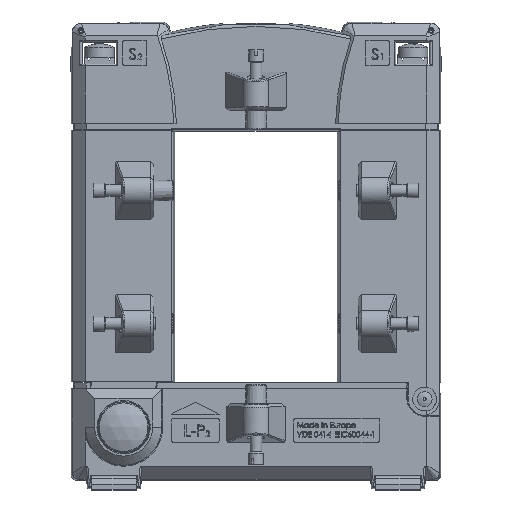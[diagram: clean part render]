
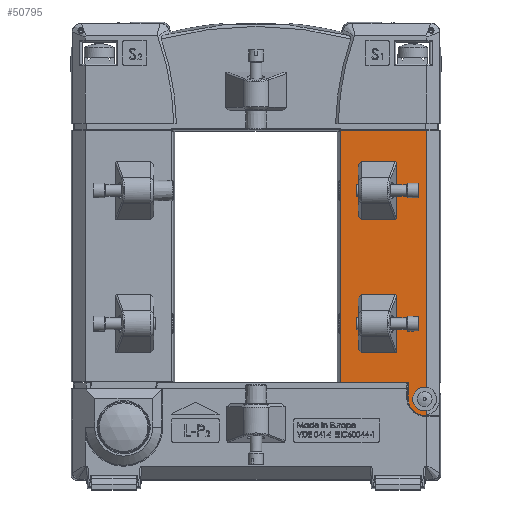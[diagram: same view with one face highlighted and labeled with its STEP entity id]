
A CAD part, top view. The second image highlights one B-rep face of the part: STEP entity #50795.
In plain terms, the highlighted planar face has unit normal (0, 0, 1).
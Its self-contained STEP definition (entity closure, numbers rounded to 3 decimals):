
#1919=ELLIPSE('',#53902,0.502,0.5);
#1920=ELLIPSE('',#53904,0.588,0.5);
#1921=ELLIPSE('',#53905,0.588,0.5);
#1922=ELLIPSE('',#53906,0.588,0.5);
#1923=ELLIPSE('',#53907,0.588,0.5);
#2383=FACE_BOUND('',#6480,.T.);
#2384=FACE_BOUND('',#6481,.T.);
#3666=FACE_OUTER_BOUND('',#6479,.T.);
#6479=EDGE_LOOP('',(#37302,#37303,#37304,#37305,#37306,#37307,#37308,#37309,
#37310,#37311,#37312,#37313));
#6480=EDGE_LOOP('',(#37314,#37315,#37316,#37317,#37318,#37319,#37320,#37321));
#6481=EDGE_LOOP('',(#37322,#37323,#37324,#37325,#37326,#37327,#37328,#37329));
#8429=CIRCLE('',#53898,5.5);
#8430=CIRCLE('',#53899,5.507);
#8431=CIRCLE('',#53900,4.003);
#8432=CIRCLE('',#53901,4.003);
#8433=CIRCLE('',#53903,0.2);
#11401=LINE('',#85970,#16301);
#11409=LINE('',#86034,#16309);
#11673=LINE('',#87048,#16573);
#11699=LINE('',#87185,#16599);
#11700=LINE('',#87191,#16600);
#11701=LINE('',#87193,#16601);
#11702=LINE('',#87196,#16602);
#11703=LINE('',#87199,#16603);
#11704=LINE('',#87202,#16604);
#11705=LINE('',#87206,#16605);
#11706=LINE('',#87207,#16606);
#11707=LINE('',#87209,#16607);
#11708=LINE('',#87211,#16608);
#11709=LINE('',#87214,#16609);
#11710=LINE('',#87216,#16610);
#11711=LINE('',#87218,#16611);
#11712=LINE('',#87222,#16612);
#11713=LINE('',#87225,#16613);
#16301=VECTOR('',#61465,1000.);
#16309=VECTOR('',#61497,1000.);
#16573=VECTOR('',#61973,1000.);
#16599=VECTOR('',#62059,1000.);
#16600=VECTOR('',#62064,1000.);
#16601=VECTOR('',#62065,1000.);
#16602=VECTOR('',#62068,1000.);
#16603=VECTOR('',#62071,1000.);
#16604=VECTOR('',#62072,1000.);
#16605=VECTOR('',#62075,1000.);
#16606=VECTOR('',#62076,1000.);
#16607=VECTOR('',#62077,1000.);
#16608=VECTOR('',#62078,1000.);
#16609=VECTOR('',#62081,1000.);
#16610=VECTOR('',#62082,1000.);
#16611=VECTOR('',#62083,1000.);
#16612=VECTOR('',#62086,1000.);
#16613=VECTOR('',#62089,1000.);
#21013=VERTEX_POINT('',#85967);
#21014=VERTEX_POINT('',#85969);
#21029=VERTEX_POINT('',#86031);
#21030=VERTEX_POINT('',#86033);
#21330=VERTEX_POINT('',#87045);
#21331=VERTEX_POINT('',#87047);
#21374=VERTEX_POINT('',#87179);
#21375=VERTEX_POINT('',#87180);
#21376=VERTEX_POINT('',#87182);
#21377=VERTEX_POINT('',#87184);
#21378=VERTEX_POINT('',#87186);
#21379=VERTEX_POINT('',#87188);
#21380=VERTEX_POINT('',#87190);
#21381=VERTEX_POINT('',#87192);
#21382=VERTEX_POINT('',#87194);
#21383=VERTEX_POINT('',#87197);
#21384=VERTEX_POINT('',#87200);
#21385=VERTEX_POINT('',#87201);
#21386=VERTEX_POINT('',#87203);
#21387=VERTEX_POINT('',#87205);
#21388=VERTEX_POINT('',#87208);
#21389=VERTEX_POINT('',#87210);
#21390=VERTEX_POINT('',#87213);
#21391=VERTEX_POINT('',#87215);
#21392=VERTEX_POINT('',#87217);
#21393=VERTEX_POINT('',#87219);
#21394=VERTEX_POINT('',#87221);
#21395=VERTEX_POINT('',#87223);
#26669=EDGE_CURVE('',#21014,#21013,#11401,.T.);
#26687=EDGE_CURVE('',#21030,#21029,#11409,.T.);
#27027=EDGE_CURVE('',#21331,#21330,#11673,.T.);
#27078=EDGE_CURVE('',#21374,#21375,#8429,.T.);
#27079=EDGE_CURVE('',#21375,#21376,#8430,.T.);
#27080=EDGE_CURVE('',#21376,#21377,#11699,.T.);
#27081=EDGE_CURVE('',#21378,#21377,#8431,.T.);
#27082=EDGE_CURVE('',#21379,#21378,#8432,.T.);
#27083=EDGE_CURVE('',#21379,#21380,#11700,.T.);
#27084=EDGE_CURVE('',#21381,#21380,#11701,.T.);
#27085=EDGE_CURVE('',#21381,#21382,#1919,.T.);
#27086=EDGE_CURVE('',#21382,#21331,#11702,.T.);
#27087=EDGE_CURVE('',#21330,#21383,#8433,.T.);
#27088=EDGE_CURVE('',#21383,#21374,#11703,.T.);
#27089=EDGE_CURVE('',#21384,#21385,#11704,.T.);
#27090=EDGE_CURVE('',#21384,#21386,#1920,.T.);
#27091=EDGE_CURVE('',#21386,#21387,#11705,.T.);
#27092=EDGE_CURVE('',#21387,#21030,#11706,.T.);
#27093=EDGE_CURVE('',#21029,#21388,#11707,.T.);
#27094=EDGE_CURVE('',#21388,#21389,#11708,.T.);
#27095=EDGE_CURVE('',#21389,#21385,#1921,.T.);
#27096=EDGE_CURVE('',#21390,#21014,#11709,.T.);
#27097=EDGE_CURVE('',#21013,#21391,#11710,.T.);
#27098=EDGE_CURVE('',#21391,#21392,#11711,.T.);
#27099=EDGE_CURVE('',#21392,#21393,#1922,.T.);
#27100=EDGE_CURVE('',#21394,#21393,#11712,.T.);
#27101=EDGE_CURVE('',#21394,#21395,#1923,.T.);
#27102=EDGE_CURVE('',#21395,#21390,#11713,.T.);
#37302=ORIENTED_EDGE('',*,*,#27078,.T.);
#37303=ORIENTED_EDGE('',*,*,#27079,.T.);
#37304=ORIENTED_EDGE('',*,*,#27080,.T.);
#37305=ORIENTED_EDGE('',*,*,#27081,.F.);
#37306=ORIENTED_EDGE('',*,*,#27082,.F.);
#37307=ORIENTED_EDGE('',*,*,#27083,.T.);
#37308=ORIENTED_EDGE('',*,*,#27084,.F.);
#37309=ORIENTED_EDGE('',*,*,#27085,.T.);
#37310=ORIENTED_EDGE('',*,*,#27086,.T.);
#37311=ORIENTED_EDGE('',*,*,#27027,.T.);
#37312=ORIENTED_EDGE('',*,*,#27087,.T.);
#37313=ORIENTED_EDGE('',*,*,#27088,.T.);
#37314=ORIENTED_EDGE('',*,*,#27089,.F.);
#37315=ORIENTED_EDGE('',*,*,#27090,.T.);
#37316=ORIENTED_EDGE('',*,*,#27091,.T.);
#37317=ORIENTED_EDGE('',*,*,#27092,.T.);
#37318=ORIENTED_EDGE('',*,*,#26687,.T.);
#37319=ORIENTED_EDGE('',*,*,#27093,.T.);
#37320=ORIENTED_EDGE('',*,*,#27094,.T.);
#37321=ORIENTED_EDGE('',*,*,#27095,.T.);
#37322=ORIENTED_EDGE('',*,*,#27096,.T.);
#37323=ORIENTED_EDGE('',*,*,#26669,.T.);
#37324=ORIENTED_EDGE('',*,*,#27097,.T.);
#37325=ORIENTED_EDGE('',*,*,#27098,.T.);
#37326=ORIENTED_EDGE('',*,*,#27099,.T.);
#37327=ORIENTED_EDGE('',*,*,#27100,.F.);
#37328=ORIENTED_EDGE('',*,*,#27101,.T.);
#37329=ORIENTED_EDGE('',*,*,#27102,.T.);
#45997=PLANE('',#53897);
#50795=ADVANCED_FACE('',(#3666,#2383,#2384),#45997,.T.);
#53897=AXIS2_PLACEMENT_3D('',#87178,#62053,#62054);
#53898=AXIS2_PLACEMENT_3D('',#87181,#62055,#62056);
#53899=AXIS2_PLACEMENT_3D('',#87183,#62057,#62058);
#53900=AXIS2_PLACEMENT_3D('',#87187,#62060,#62061);
#53901=AXIS2_PLACEMENT_3D('',#87189,#62062,#62063);
#53902=AXIS2_PLACEMENT_3D('',#87195,#62066,#62067);
#53903=AXIS2_PLACEMENT_3D('',#87198,#62069,#62070);
#53904=AXIS2_PLACEMENT_3D('',#87204,#62073,#62074);
#53905=AXIS2_PLACEMENT_3D('',#87212,#62079,#62080);
#53906=AXIS2_PLACEMENT_3D('',#87220,#62084,#62085);
#53907=AXIS2_PLACEMENT_3D('',#87224,#62087,#62088);
#61465=DIRECTION('',(0.,1.,0.));
#61497=DIRECTION('',(0.,1.,0.));
#61973=DIRECTION('',(1.,0.,0.));
#62053=DIRECTION('center_axis',(0.,0.,1.));
#62054=DIRECTION('ref_axis',(1.,0.,0.));
#62055=DIRECTION('center_axis',(0.,0.,1.));
#62056=DIRECTION('ref_axis',(1.,0.,0.));
#62057=DIRECTION('center_axis',(0.,0.,
1.));
#62058=DIRECTION('ref_axis',(0.246,-0.969,0.));
#62059=DIRECTION('',(0.,1.,0.));
#62060=DIRECTION('center_axis',(0.,0.,1.));
#62061=DIRECTION('ref_axis',(1.,0.,0.));
#62062=DIRECTION('center_axis',(0.,0.,1.));
#62063=DIRECTION('ref_axis',(1.,0.,0.));
#62064=DIRECTION('',(0.,1.,0.));
#62065=DIRECTION('',(1.,0.,0.));
#62066=DIRECTION('center_axis',(0.,0.,1.));
#62067=DIRECTION('ref_axis',(0.37,-0.929,0.));
#62068=DIRECTION('',(0.,-1.,0.));
#62069=DIRECTION('center_axis',(0.,0.,-1.));
#62070=DIRECTION('ref_axis',(1.,0.,0.));
#62071=DIRECTION('',(0.,-1.,0.));
#62072=DIRECTION('',(0.,1.,0.));
#62073=DIRECTION('center_axis',(0.,0.,-1.));
#62074=DIRECTION('ref_axis',(-0.358,0.934,0.));
#62075=DIRECTION('',(-1.,0.,0.));
#62076=DIRECTION('',(-0.658,0.753,0.));
#62077=DIRECTION('',(0.658,0.753,0.));
#62078=DIRECTION('',(1.,0.,0.));
#62079=DIRECTION('center_axis',(0.,0.,-1.));
#62080=DIRECTION('ref_axis',(0.358,0.934,0.));
#62081=DIRECTION('',(-0.658,0.753,0.));
#62082=DIRECTION('',(0.658,0.753,0.));
#62083=DIRECTION('',(1.,0.,0.));
#62084=DIRECTION('center_axis',(0.,0.,
-1.));
#62085=DIRECTION('ref_axis',(0.358,0.934,0.));
#62086=DIRECTION('',(0.,1.,0.));
#62087=DIRECTION('center_axis',(0.,0.,
-1.));
#62088=DIRECTION('ref_axis',(-0.358,0.934,0.));
#62089=DIRECTION('',(-1.,0.,0.));
#85967=CARTESIAN_POINT('',(34.5,50.41,17.));
#85969=CARTESIAN_POINT('',(34.5,33.09,17.));
#85970=CARTESIAN_POINT('',(34.5,-28.74,17.));
#86031=CARTESIAN_POINT('',(34.5,95.41,17.));
#86033=CARTESIAN_POINT('',(34.5,78.09,17.));
#86034=CARTESIAN_POINT('',(34.5,16.26,17.));
#87045=CARTESIAN_POINT('',(51.3,21.96,17.));
#87047=CARTESIAN_POINT('',(28.576,21.96,17.));
#87048=CARTESIAN_POINT('',(27.5,21.96,17.));
#87178=CARTESIAN_POINT('Origin',(57.,16.26,17.));
#87179=CARTESIAN_POINT('',(51.5,16.26,17.));
#87180=CARTESIAN_POINT('',(57.,10.76,17.));
#87181=CARTESIAN_POINT('Origin',(57.,16.26,17.));
#87182=CARTESIAN_POINT('',(57.759,10.897,17.));
#87183=CARTESIAN_POINT('Origin',(56.402,16.234,17.));
#87184=CARTESIAN_POINT('',(57.759,12.329,17.));
#87185=CARTESIAN_POINT('',(57.759,143.166,17.));
#87186=CARTESIAN_POINT('',(52.997,16.26,17.));
#87187=CARTESIAN_POINT('Origin',(57.,16.26,17.));
#87188=CARTESIAN_POINT('',(57.759,20.191,17.));
#87189=CARTESIAN_POINT('Origin',(57.,16.26,17.));
#87190=CARTESIAN_POINT('',(57.759,107.183,17.));
#87191=CARTESIAN_POINT('',(57.759,143.166,17.));
#87192=CARTESIAN_POINT('',(28.592,107.183,17.));
#87193=CARTESIAN_POINT('',(57.,107.183,17.));
#87194=CARTESIAN_POINT('',(28.576,107.183,17.));
#87195=CARTESIAN_POINT('Origin',(28.594,106.682,17.));
#87196=CARTESIAN_POINT('',(28.576,21.96,17.));
#87197=CARTESIAN_POINT('',(51.5,21.76,17.));
#87198=CARTESIAN_POINT('Origin',(51.3,21.76,17.));
#87199=CARTESIAN_POINT('',(51.5,16.26,17.));
#87200=CARTESIAN_POINT('',(47.5,77.45,17.));
#87201=CARTESIAN_POINT('',(47.5,96.05,17.));
#87202=CARTESIAN_POINT('',(47.5,16.26,17.));
#87203=CARTESIAN_POINT('',(47.043,76.935,17.));
#87204=CARTESIAN_POINT('Origin',(46.988,77.512,17.));
#87205=CARTESIAN_POINT('',(35.509,76.935,17.));
#87206=CARTESIAN_POINT('',(57.,76.935,17.));
#87207=CARTESIAN_POINT('',(32.82,80.012,17.));
#87208=CARTESIAN_POINT('',(35.509,96.565,17.));
#87209=CARTESIAN_POINT('',(32.82,93.488,17.));
#87210=CARTESIAN_POINT('',(47.043,96.565,17.));
#87211=CARTESIAN_POINT('',(57.,96.565,17.));
#87212=CARTESIAN_POINT('Origin',(46.988,95.988,17.));
#87213=CARTESIAN_POINT('',(35.509,31.935,17.));
#87214=CARTESIAN_POINT('',(32.82,35.012,17.));
#87215=CARTESIAN_POINT('',(35.509,51.565,17.));
#87216=CARTESIAN_POINT('',(32.82,48.488,17.));
#87217=CARTESIAN_POINT('',(47.043,51.565,17.));
#87218=CARTESIAN_POINT('',(57.,51.565,17.));
#87219=CARTESIAN_POINT('',(47.5,51.05,17.));
#87220=CARTESIAN_POINT('Origin',(46.988,50.988,17.));
#87221=CARTESIAN_POINT('',(47.5,32.45,17.));
#87222=CARTESIAN_POINT('',(47.5,-28.74,17.));
#87223=CARTESIAN_POINT('',(47.043,31.935,17.));
#87224=CARTESIAN_POINT('Origin',(46.988,32.512,17.));
#87225=CARTESIAN_POINT('',(57.,31.935,17.));
